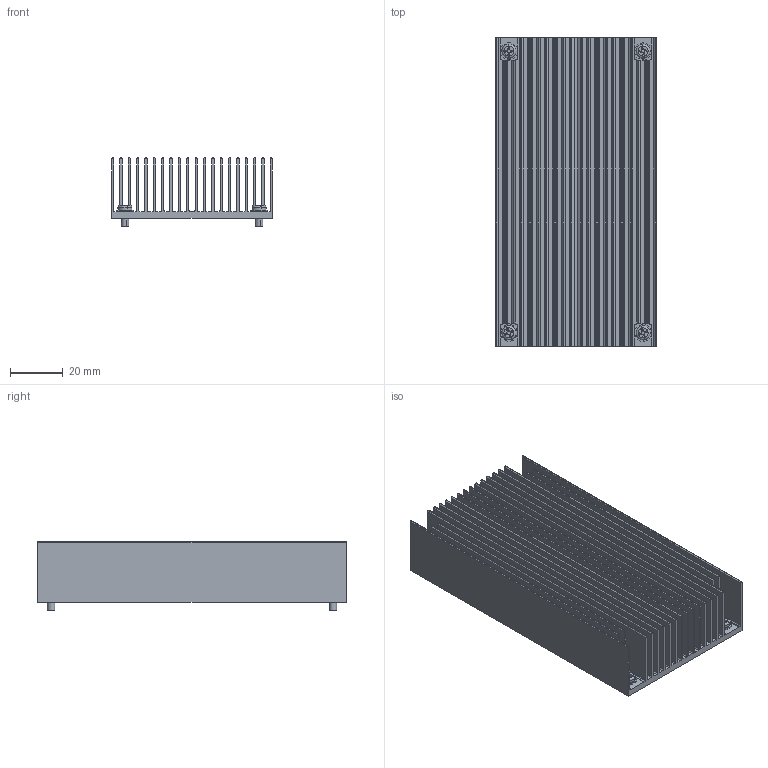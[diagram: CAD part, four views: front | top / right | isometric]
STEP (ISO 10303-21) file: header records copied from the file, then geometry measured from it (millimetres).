
FILE_DESCRIPTION (( 'STEP AP214' ), '1' );
FILE_NAME ('HS1594+K06.STEP', '2023-02-15T16:50:23', ( '' ), ( '' ), 'SwSTEP 2.0', 'SolidWorks 2020', '' );
FILE_SCHEMA (( 'AUTOMOTIVE_DESIGN' ));
Length unit declared in the file: inch
Products named in the file (1): HS1594+K06
Bounding box: 60.96 x 116.84 x 25.81 mm (x, y, z)
Volume: 59224.2 mm3; surface area: 107342.7 mm2
Topology: 5 solids, 5 shells, 572 faces, 1514 edges, 964 vertices
Faces by surface type: plane 410, cylinder 154, torus 8
Entity records: 25078 total; most frequent: CARTESIAN_POINT 3075, DIRECTION 3036, ORIENTED_EDGE 3028, EDGE_CURVE 1514, LINE 1122, VECTOR 1122, VERTEX_POINT 964, AXIS2_PLACEMENT_3D 957
